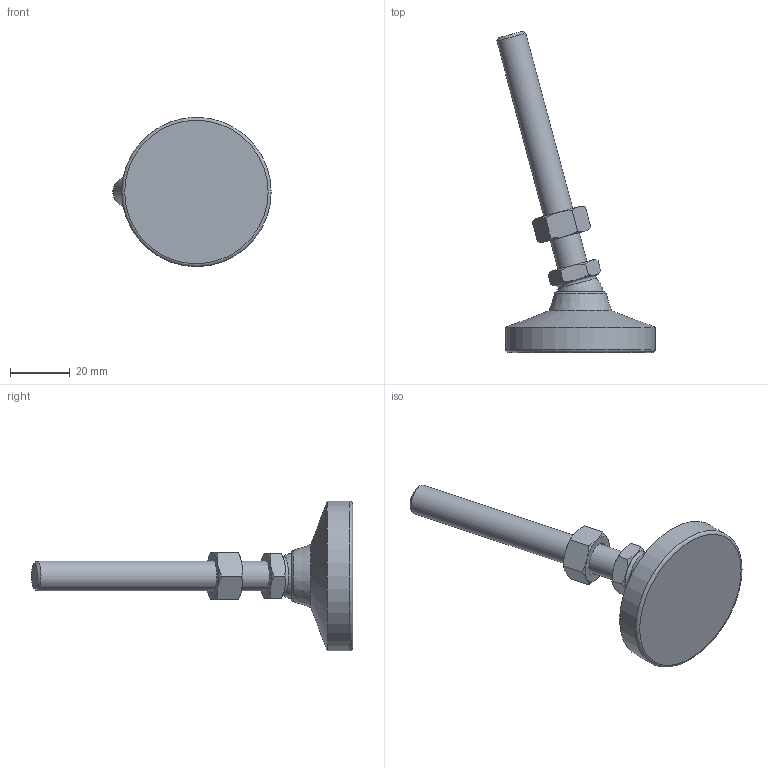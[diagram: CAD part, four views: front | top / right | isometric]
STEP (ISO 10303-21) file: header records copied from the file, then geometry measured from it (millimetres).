
FILE_DESCRIPTION( ( 'STEP AP214' ), ' ' );
FILE_NAME( 'O:/ganter_2015/teil_2/2_5/gn343_2/gn343_2_kr/Levelling foot with threaded stud GN 343.2-50-M10-80-KR-(15).stp', '2015-10-26T09:13:42', ( '' ), ( '' ), ' ', 'PARTsolutions', ' ' );
FILE_SCHEMA( ( 'AUTOMOTIVE_DESIGN { 1 0 10303 214 1 1 1 1 }' ) );
Length unit declared in the file: millimetre
Products named in the file (4): Levelling foot with threaded stud GN 343.2-50-M10-80-KR-(15); _Levelling foot with threaded stud GN 343.2-50-M10-80-KR-(15)_foot; _Levelling foot with threaded stud GN 343.2-50-M10-80-KR-(15)_screw; _Levelling foot with threaded stud GN 343.2-50-M10-80-KR-(15)_nut
Assembly tree (3 placements, depth 2):
  Levelling foot with threaded stud GN 343.2-50-M10-80-KR-(15)
    _Levelling foot with threaded stud GN 343.2-50-M10-80-KR-(15)_foot
    _Levelling foot with threaded stud GN 343.2-50-M10-80-KR-(15)_screw
    _Levelling foot with threaded stud GN 343.2-50-M10-80-KR-(15)_nut
Bounding box: 52.96 x 107.49 x 50 mm (x, y, z)
Volume: 33439.4 mm3; surface area: 10388.7 mm2
Topology: 3 solids, 3 shells, 56 faces, 117 edges, 68 vertices
Faces by surface type: cone 29, plane 19, torus 3, cylinder 3, sphere 2
Full cylindrical faces by diameter (mm): 8.376 x1, 10 x1, 50 x1
Entity records: 2066 total; most frequent: CARTESIAN_POINT 498, DIRECTION 212, ORIENTED_EDGE 200, AXIS2_PLACEMENT_3D 100, EDGE_CURVE 100, EDGE_LOOP 72, VERTEX_POINT 66, FACE_OUTER_BOUND 62
